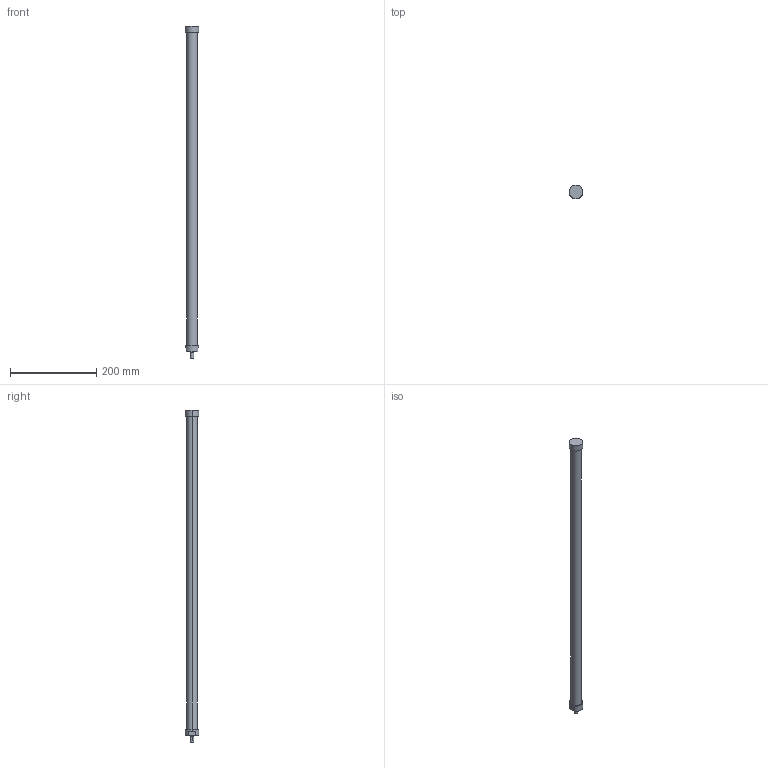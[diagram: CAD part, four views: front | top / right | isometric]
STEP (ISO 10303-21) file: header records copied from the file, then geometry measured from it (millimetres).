
FILE_DESCRIPTION(('STEP AP214'),'1');
FILE_NAME('ETT-R050M764.stp','2015-02-02T15:21:14',(' '),(' '),'Spatial InterOp 3D',' ',' ');
FILE_SCHEMA(('automotive_design'));
Length unit declared in the file: metre
Products named in the file (2): 1; 2
Bounding box: 31 x 31 x 769 mm (x, y, z)
Volume: 378217.2 mm3; surface area: 62456 mm2
Topology: 1 solids, 4 shells, 20 faces, 48 edges, 36 vertices
Faces by surface type: cylinder 10, plane 10
Entity records: 812 total; most frequent: DIRECTION 120, CARTESIAN_POINT 106, ORIENTED_EDGE 84, AXIS2_PLACEMENT_3D 50, EDGE_CURVE 48, VERTEX_POINT 36, CIRCLE 28, EDGE_LOOP 24
